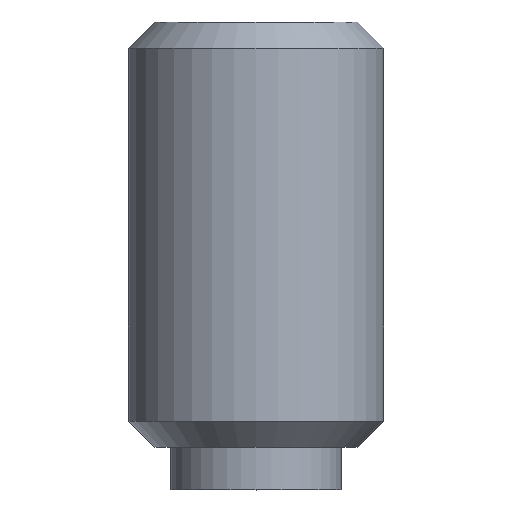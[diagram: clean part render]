
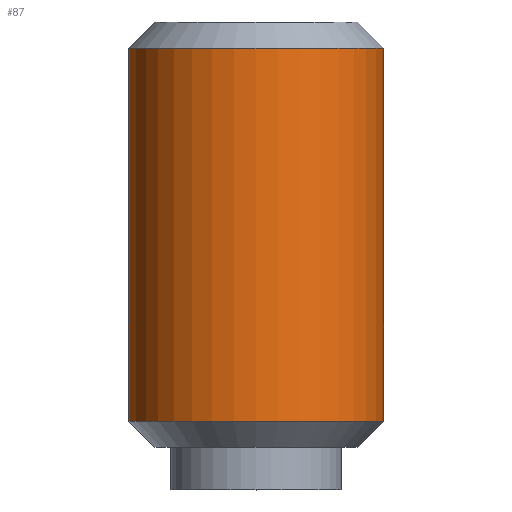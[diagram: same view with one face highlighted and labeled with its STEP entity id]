
A CAD part, top view. The second image highlights one B-rep face of the part: STEP entity #87.
In plain terms, the highlighted cylindrical face has radius 3 mm (diameter 6 mm), a full revolution.
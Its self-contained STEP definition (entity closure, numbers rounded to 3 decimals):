
#87 = ADVANCED_FACE( '', ( #118, #119 ), #120, .T. );
#118 = FACE_OUTER_BOUND( '', #152, .T. );
#119 = FACE_OUTER_BOUND( '', #153, .T. );
#120 = CYLINDRICAL_SURFACE( '', #154, 3. );
#152 = EDGE_LOOP( '', ( #238 ) );
#153 = EDGE_LOOP( '', ( #239 ) );
#154 = AXIS2_PLACEMENT_3D( '', #240, #241, #242 );
#238 = ORIENTED_EDGE( '', *, *, #270, .F. );
#239 = ORIENTED_EDGE( '', *, *, #271, .T. );
#240 = CARTESIAN_POINT( '', ( 0., 0., 0. ) );
#241 = DIRECTION( '', ( 0., 1., 0. ) );
#242 = DIRECTION( '', ( 0., 0., -1. ) );
#270 = EDGE_CURVE( '', #310, #310, #311, .T. );
#271 = EDGE_CURVE( '', #312, #312, #313, .T. );
#310 = VERTEX_POINT( '', #370 );
#311 = CIRCLE( '', #371, 3. );
#312 = VERTEX_POINT( '', #372 );
#313 = CIRCLE( '', #373, 3. );
#370 = CARTESIAN_POINT( '', ( 0., 1.614, -3. ) );
#371 = AXIS2_PLACEMENT_3D( '', #404, #405, #406 );
#372 = CARTESIAN_POINT( '', ( 0., 10.387, -3. ) );
#373 = AXIS2_PLACEMENT_3D( '', #407, #408, #409 );
#404 = CARTESIAN_POINT( '', ( 0., 1.614, 0. ) );
#405 = DIRECTION( '', ( 0., -1., 0. ) );
#406 = DIRECTION( '', ( 0., 0., -1. ) );
#407 = CARTESIAN_POINT( '', ( 0., 10.387, 0. ) );
#408 = DIRECTION( '', ( 0., -1., 0. ) );
#409 = DIRECTION( '', ( 0., 0., -1. ) );
